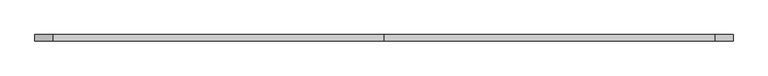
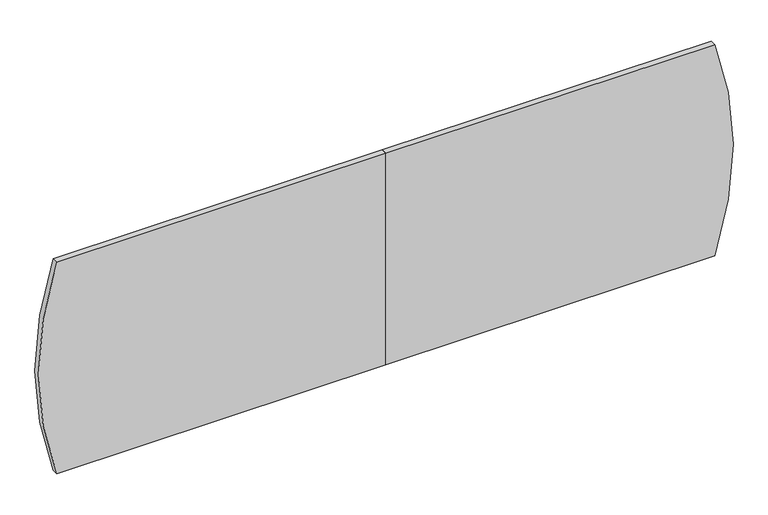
"""IFC4 building model written with IfcOpenShell, lengths in millimetres: proxy geometry, FOUNDATION^TABLE 6_RADIUS ENDS-TOPS SOLID."""

from ifc_helpers import new_model, si_unit, point, frame, frame_2d, origin, place, context, project, spatial, polyline, circle_curve, trimmed, segment, composite_curve, outline, extrude, source, transform, mapped, element, save


def generic_models_b144283c(model_context):
    return source(origin(), model_context, "Body", "SweptSolid", [
        extrude(outline(composite_curve([segment(polyline([(-1371.6, 2133.6), (-1371.6, 4153.9780141)]), True, "CONTINUOUS"), segment(trimmed(circle_curve(frame_2d((-685.8, 2133.6)), 2133.6), [point((-1371.6, 4153.9780141))], [point((0.0, 4153.9780141))], False, "CARTESIAN"), True, "CONTINUOUS"), segment(polyline([(0.0, 4153.9780141), (0.0, 2133.6), (-1371.6, 2133.6)]), True, "CONTINUOUS")], self_intersect=False)), frame((0.0, 0.0, 0.0), z_axis=(0.0, 1.0, 0.0), x_axis=(0.0, 0.0, 1.0)), (0.0, 0.0, 1.0), 38.1),
        extrude(outline(composite_curve([segment(polyline([(0.0, 2133.6), (0.0, 113.2219859)]), True, "CONTINUOUS"), segment(trimmed(circle_curve(frame_2d((-685.8, 2133.6)), 2133.6), [point((0.0, 113.2219859))], [point((-1371.6, 113.2219859))], False, "CARTESIAN"), True, "CONTINUOUS"), segment(polyline([(-1371.6, 113.2219859), (-1371.6, 2133.6), (0.0, 2133.6)]), True, "CONTINUOUS")], self_intersect=False)), frame((0.0, 0.0, 0.0), z_axis=(0.0, 1.0, 0.0), x_axis=(0.0, 0.0, 1.0)), (0.0, 0.0, 1.0), 38.1),
    ])


if __name__ == "__main__":
    model = new_model("IFC4")
    model_context = context("Model", 3, world=origin())
    ifc_project = project(units=[si_unit("LENGTHUNIT", "METRE", prefix="MILLI")], contexts=[model_context])
    site = spatial("IfcSite", under=ifc_project)
    building = spatial("IfcBuilding", under=site)
    placement = place(None, origin())
    generic_models_shape = generic_models_b144283c(model_context)
    element("IfcBuildingElementProxy", 1, Name="FOUNDATION^TABLE 6_RADIUS ENDS-TOPS SOLID", ObjectType="FOUNDATION^TABLE 6_RADIUS ENDS-TOPS SOLID", at=placement, inside=building, context=model_context, shape_type="MappedRepresentation", body=[
        mapped(generic_models_shape, transform((0.0, 0.0, 0.0), x_axis=(1.0, 0.0, 0.0), y_axis=(0.0, 1.0, 0.0), z_axis=(0.0, 0.0, 1.0))),
    ])
    save(model, "model.ifc")
